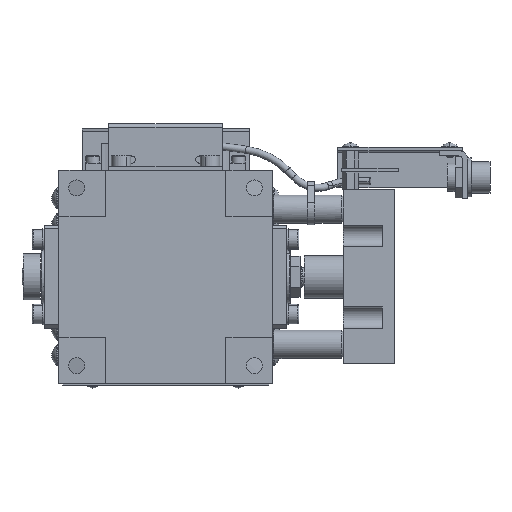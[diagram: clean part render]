
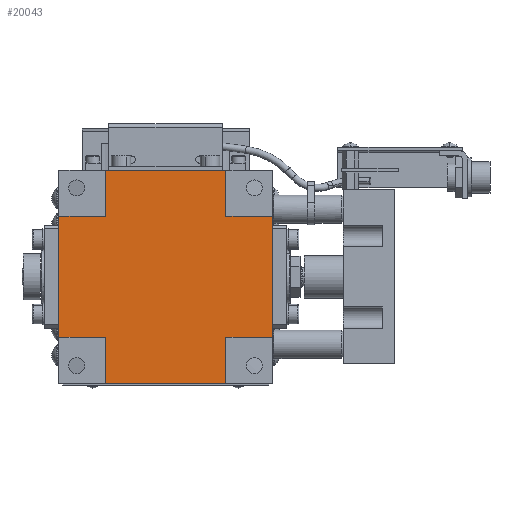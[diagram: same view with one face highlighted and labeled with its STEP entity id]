
A CAD part, front view. The second image highlights one B-rep face of the part: STEP entity #20043.
In plain terms, the highlighted planar face has unit normal (0, -1, 0).
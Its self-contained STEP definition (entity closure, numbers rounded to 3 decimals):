
#640 = CARTESIAN_POINT ( 'NONE',  ( 17., 0.3, 30. ) ) ;
#1184 = EDGE_CURVE ( 'NONE', #10161, #5301, #9113, .T. ) ;
#1190 = EDGE_CURVE ( 'NONE', #2436, #2352, #22887, .T. ) ;
#1573 = VECTOR ( 'NONE', #18577, 1000. ) ;
#1722 = EDGE_CURVE ( 'NONE', #24663, #3531, #22516, .T. ) ;
#1768 = ORIENTED_EDGE ( 'NONE', *, *, #1184, .T. ) ;
#2075 = CARTESIAN_POINT ( 'NONE',  ( -17., 0.3, 30. ) ) ;
#2116 = VECTOR ( 'NONE', #24240, 1000. ) ;
#2168 = ORIENTED_EDGE ( 'NONE', *, *, #14623, .T. ) ;
#2352 = VERTEX_POINT ( 'NONE', #5795 ) ;
#2436 = VERTEX_POINT ( 'NONE', #640 ) ;
#2732 = EDGE_CURVE ( 'NONE', #5301, #9095, #7677, .T. ) ;
#3531 = VERTEX_POINT ( 'NONE', #26557 ) ;
#3942 = CARTESIAN_POINT ( 'NONE',  ( -17., 0.3, -30. ) ) ;
#4122 = DIRECTION ( 'NONE',  ( 0., 0., -1. ) ) ;
#4140 = EDGE_CURVE ( 'NONE', #3531, #23288, #5967, .T. ) ;
#4186 = VECTOR ( 'NONE', #10191, 1000. ) ;
#4457 = EDGE_CURVE ( 'NONE', #11521, #2436, #16867, .T. ) ;
#4500 = ORIENTED_EDGE ( 'NONE', *, *, #16102, .T. ) ;
#4868 = VERTEX_POINT ( 'NONE', #5324 ) ;
#5137 = CARTESIAN_POINT ( 'NONE',  ( -17., 0.3, 17. ) ) ;
#5301 = VERTEX_POINT ( 'NONE', #11092 ) ;
#5324 = CARTESIAN_POINT ( 'NONE',  ( -17., 0.3, -17. ) ) ;
#5648 = LINE ( 'NONE', #14761, #16851 ) ;
#5795 = CARTESIAN_POINT ( 'NONE',  ( -17., 0.3, 30. ) ) ;
#5948 = DIRECTION ( 'NONE',  ( -1., 0., 0. ) ) ;
#5967 = LINE ( 'NONE', #25027, #10910 ) ;
#6047 = CARTESIAN_POINT ( 'NONE',  ( 17., 0.3, -17. ) ) ;
#6050 = ORIENTED_EDGE ( 'NONE', *, *, #20354, .T. ) ;
#6152 = ORIENTED_EDGE ( 'NONE', *, *, #22525, .T. ) ;
#6352 = ORIENTED_EDGE ( 'NONE', *, *, #1722, .T. ) ;
#6604 = EDGE_LOOP ( 'NONE', ( #1768, #25390, #6152, #17479, #6960, #6050, #6352, #16059, #2168, #4500, #22742, #14001 ) ) ;
#6659 = VECTOR ( 'NONE', #18480, 1000. ) ;
#6960 = ORIENTED_EDGE ( 'NONE', *, *, #1190, .T. ) ;
#7162 = CARTESIAN_POINT ( 'NONE',  ( -17., 0.3, 17. ) ) ;
#7216 = CARTESIAN_POINT ( 'NONE',  ( -17., 0.3, -30. ) ) ;
#7677 = LINE ( 'NONE', #18375, #20491 ) ;
#7793 = CARTESIAN_POINT ( 'NONE',  ( 17., 0.3, 17. ) ) ;
#8484 = CARTESIAN_POINT ( 'NONE',  ( 17., 0.3, -30. ) ) ;
#9095 = VERTEX_POINT ( 'NONE', #25792 ) ;
#9113 = LINE ( 'NONE', #6047, #4186 ) ;
#10161 = VERTEX_POINT ( 'NONE', #13157 ) ;
#10191 = DIRECTION ( 'NONE',  ( 1., 0., 0. ) ) ;
#10229 = VECTOR ( 'NONE', #4122, 1000. ) ;
#10423 = DIRECTION ( 'NONE',  ( -1., 0., 0. ) ) ;
#10538 = VECTOR ( 'NONE', #10423, 1000. ) ;
#10838 = VERTEX_POINT ( 'NONE', #8484 ) ;
#10880 = LINE ( 'NONE', #3942, #10229 ) ;
#10910 = VECTOR ( 'NONE', #25468, 1000. ) ;
#11092 = CARTESIAN_POINT ( 'NONE',  ( 30., 0.3, -17. ) ) ;
#11521 = VERTEX_POINT ( 'NONE', #7793 ) ;
#12053 = CARTESIAN_POINT ( 'NONE',  ( 17., 0.3, 17. ) ) ;
#12563 = DIRECTION ( 'NONE',  ( -1., 0., 0. ) ) ;
#13009 = AXIS2_PLACEMENT_3D ( 'NONE', #26716, #16358, #12563 ) ;
#13098 = CARTESIAN_POINT ( 'NONE',  ( -17., 0.3, -30. ) ) ;
#13157 = CARTESIAN_POINT ( 'NONE',  ( 17., 0.3, -17. ) ) ;
#14001 = ORIENTED_EDGE ( 'NONE', *, *, #21377, .T. ) ;
#14623 = EDGE_CURVE ( 'NONE', #23288, #4868, #21262, .T. ) ;
#14699 = VECTOR ( 'NONE', #24505, 1000. ) ;
#14761 = CARTESIAN_POINT ( 'NONE',  ( 17., 0.3, -30. ) ) ;
#15119 = LINE ( 'NONE', #25367, #10538 ) ;
#15223 = CARTESIAN_POINT ( 'NONE',  ( -30., 0.3, -17. ) ) ;
#16059 = ORIENTED_EDGE ( 'NONE', *, *, #4140, .T. ) ;
#16102 = EDGE_CURVE ( 'NONE', #4868, #21155, #10880, .T. ) ;
#16252 = CARTESIAN_POINT ( 'NONE',  ( -30., 0.3, 17. ) ) ;
#16358 = DIRECTION ( 'NONE',  ( 0., 1., 0. ) ) ;
#16595 = CARTESIAN_POINT ( 'NONE',  ( -30., 0.3, -17. ) ) ;
#16851 = VECTOR ( 'NONE', #16981, 1000. ) ;
#16867 = LINE ( 'NONE', #12053, #6659 ) ;
#16981 = DIRECTION ( 'NONE',  ( 0., 0., 1. ) ) ;
#17370 = VECTOR ( 'NONE', #5948, 1000. ) ;
#17479 = ORIENTED_EDGE ( 'NONE', *, *, #4457, .T. ) ;
#18375 = CARTESIAN_POINT ( 'NONE',  ( 30., 0.3, 17. ) ) ;
#18480 = DIRECTION ( 'NONE',  ( 0., 0., 1. ) ) ;
#18577 = DIRECTION ( 'NONE',  ( 1., 0., 0. ) ) ;
#19147 = FACE_OUTER_BOUND ( 'NONE', #6604, .T. ) ;
#19508 = VECTOR ( 'NONE', #21828, 1000. ) ;
#20043 = ADVANCED_FACE ( 'NONE', ( #19147 ), #24609, .F. ) ;
#20354 = EDGE_CURVE ( 'NONE', #2352, #24663, #25015, .T. ) ;
#20491 = VECTOR ( 'NONE', #22632, 1000. ) ;
#21155 = VERTEX_POINT ( 'NONE', #13098 ) ;
#21262 = LINE ( 'NONE', #16595, #1573 ) ;
#21377 = EDGE_CURVE ( 'NONE', #10838, #10161, #5648, .T. ) ;
#21828 = DIRECTION ( 'NONE',  ( 0., 0., -1. ) ) ;
#22516 = LINE ( 'NONE', #16252, #14699 ) ;
#22525 = EDGE_CURVE ( 'NONE', #9095, #11521, #15119, .T. ) ;
#22632 = DIRECTION ( 'NONE',  ( 0., 0., 1. ) ) ;
#22742 = ORIENTED_EDGE ( 'NONE', *, *, #26260, .T. ) ;
#22887 = LINE ( 'NONE', #2075, #17370 ) ;
#23288 = VERTEX_POINT ( 'NONE', #15223 ) ;
#24240 = DIRECTION ( 'NONE',  ( 1., 0., 0. ) ) ;
#24505 = DIRECTION ( 'NONE',  ( -1., 0., 0. ) ) ;
#24609 = PLANE ( 'NONE',  #13009 ) ;
#24663 = VERTEX_POINT ( 'NONE', #5137 ) ;
#25015 = LINE ( 'NONE', #7162, #19508 ) ;
#25027 = CARTESIAN_POINT ( 'NONE',  ( -30., 0.3, 17. ) ) ;
#25367 = CARTESIAN_POINT ( 'NONE',  ( 17., 0.3, 17. ) ) ;
#25390 = ORIENTED_EDGE ( 'NONE', *, *, #2732, .T. ) ;
#25468 = DIRECTION ( 'NONE',  ( 0., 0., -1. ) ) ;
#25727 = LINE ( 'NONE', #7216, #2116 ) ;
#25792 = CARTESIAN_POINT ( 'NONE',  ( 30., 0.3, 17. ) ) ;
#26260 = EDGE_CURVE ( 'NONE', #21155, #10838, #25727, .T. ) ;
#26557 = CARTESIAN_POINT ( 'NONE',  ( -30., 0.3, 17. ) ) ;
#26716 = CARTESIAN_POINT ( 'NONE',  ( 0., 0.3, 0. ) ) ;
